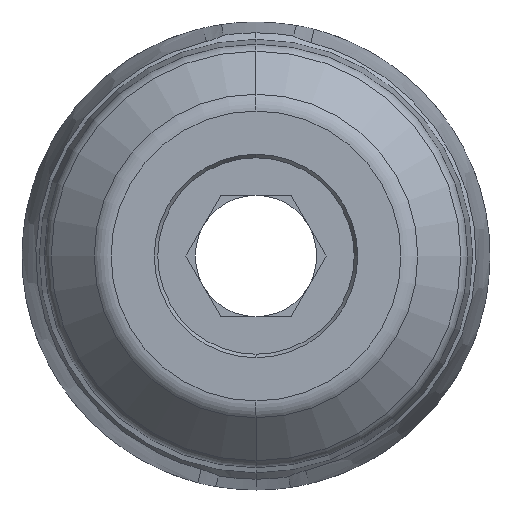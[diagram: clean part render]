
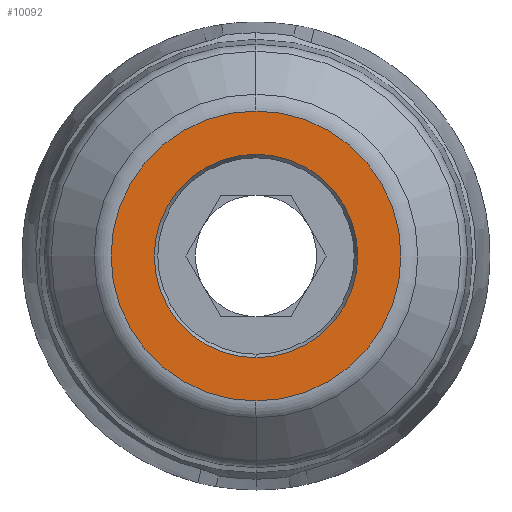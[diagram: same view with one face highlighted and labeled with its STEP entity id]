
A CAD part, left-side view. The second image highlights one B-rep face of the part: STEP entity #10092.
In plain terms, the highlighted planar face has unit normal (-1, 0, 0).
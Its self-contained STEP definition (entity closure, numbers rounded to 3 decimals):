
#81 = CIRCLE ( 'NONE', #1750, 8.55 ) ;
#221 = CIRCLE ( 'NONE', #7884, 8.55 ) ;
#563 = ORIENTED_EDGE ( 'NONE', *, *, #7274, .F. ) ;
#922 = CIRCLE ( 'NONE', #9403, 12.172 ) ;
#1317 = CARTESIAN_POINT ( 'NONE',  ( -35., 0., -8.55 ) ) ;
#1600 = EDGE_LOOP ( 'NONE', ( #3010, #563 ) ) ;
#1721 = CARTESIAN_POINT ( 'NONE',  ( -35., 0., 0. ) ) ;
#1750 = AXIS2_PLACEMENT_3D ( 'NONE', #1721, #8792, #8020 ) ;
#2578 = CARTESIAN_POINT ( 'NONE',  ( -35., 0., 0. ) ) ;
#2699 = CARTESIAN_POINT ( 'NONE',  ( -35., 0., 0. ) ) ;
#3010 = ORIENTED_EDGE ( 'NONE', *, *, #6406, .F. ) ;
#3179 = DIRECTION ( 'NONE',  ( -1., 0., 0. ) ) ;
#3751 = AXIS2_PLACEMENT_3D ( 'NONE', #2578, #6506, #4001 ) ;
#3857 = EDGE_CURVE ( 'NONE', #10094, #8533, #221, .T. ) ;
#4001 = DIRECTION ( 'NONE',  ( 0., 0., -1. ) ) ;
#4387 = VERTEX_POINT ( 'NONE', #6908 ) ;
#4911 = CIRCLE ( 'NONE', #3751, 12.172 ) ;
#5748 = DIRECTION ( 'NONE',  ( 1., 0., 0. ) ) ;
#6271 = CARTESIAN_POINT ( 'NONE',  ( -35., 0., 12.172 ) ) ;
#6310 = CARTESIAN_POINT ( 'NONE',  ( -35., 8.55, 0. ) ) ;
#6362 = DIRECTION ( 'NONE',  ( 0., 0., 1. ) ) ;
#6386 = EDGE_LOOP ( 'NONE', ( #6818, #6520 ) ) ;
#6406 = EDGE_CURVE ( 'NONE', #4387, #8948, #4911, .T. ) ;
#6506 = DIRECTION ( 'NONE',  ( 1., 0., 0. ) ) ;
#6520 = ORIENTED_EDGE ( 'NONE', *, *, #7033, .T. ) ;
#6818 = ORIENTED_EDGE ( 'NONE', *, *, #3857, .T. ) ;
#6872 = DIRECTION ( 'NONE',  ( 1., 0., 0. ) ) ;
#6908 = CARTESIAN_POINT ( 'NONE',  ( -35., 0., -12.172 ) ) ;
#6986 = FACE_BOUND ( 'NONE', #6386, .T. ) ;
#7033 = EDGE_CURVE ( 'NONE', #8533, #10094, #81, .T. ) ;
#7141 = PLANE ( 'NONE',  #9161 ) ;
#7274 = EDGE_CURVE ( 'NONE', #8948, #4387, #922, .T. ) ;
#7884 = AXIS2_PLACEMENT_3D ( 'NONE', #2699, #5748, #9001 ) ;
#8020 = DIRECTION ( 'NONE',  ( 0., 0., -1. ) ) ;
#8410 = CARTESIAN_POINT ( 'NONE',  ( -35., 0., 0. ) ) ;
#8533 = VERTEX_POINT ( 'NONE', #1317 ) ;
#8586 = FACE_OUTER_BOUND ( 'NONE', #1600, .T. ) ;
#8792 = DIRECTION ( 'NONE',  ( 1., 0., 0. ) ) ;
#8948 = VERTEX_POINT ( 'NONE', #6271 ) ;
#9001 = DIRECTION ( 'NONE',  ( 0., 0., -1. ) ) ;
#9161 = AXIS2_PLACEMENT_3D ( 'NONE', #6310, #3179, #6362 ) ;
#9364 = DIRECTION ( 'NONE',  ( 0., 0., -1. ) ) ;
#9403 = AXIS2_PLACEMENT_3D ( 'NONE', #8410, #6872, #9364 ) ;
#9587 = CARTESIAN_POINT ( 'NONE',  ( -35., 0., 8.55 ) ) ;
#10092 = ADVANCED_FACE ( 'NONE', ( #6986, #8586 ), #7141, .T. ) ;
#10094 = VERTEX_POINT ( 'NONE', #9587 ) ;
